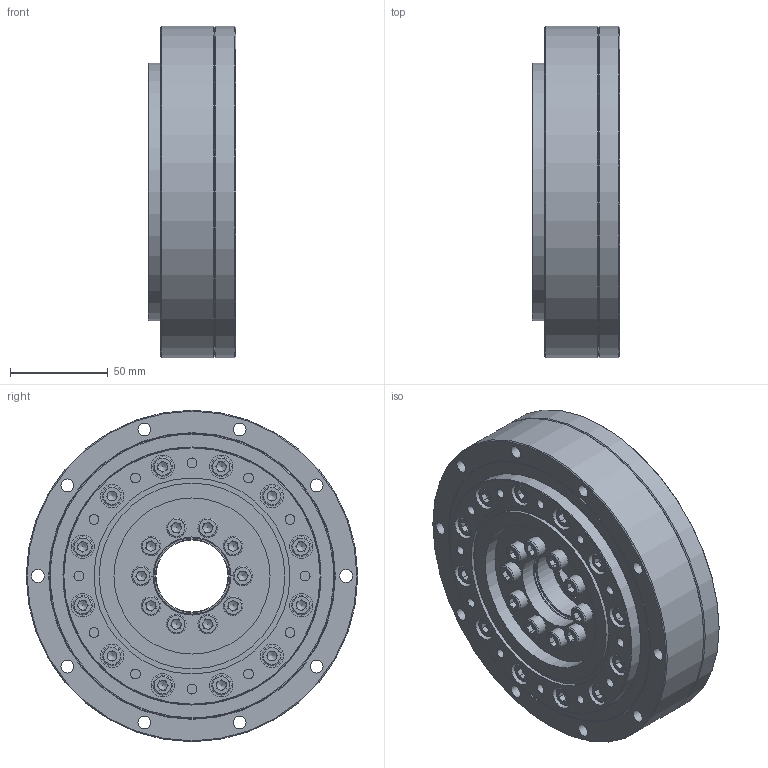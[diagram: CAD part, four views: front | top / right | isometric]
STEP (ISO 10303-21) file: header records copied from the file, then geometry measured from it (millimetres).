
FILE_DESCRIPTION (( 'STEP AP203' ), '1' );
FILE_NAME ('LCD-40-XXX-C-I.STEP', '2025-01-20T02:22:11', ( '' ), ( '' ), 'SwSTEP 2.0', 'SolidWorks 2023', '' );
FILE_SCHEMA (( 'CONFIG_CONTROL_DESIGN' ));
Length unit declared in the file: metre
Products named in the file (1): LCD-40-XXX-C-I
Bounding box: 45 x 170 x 170 mm (x, y, z)
Volume: 682506.7 mm3; surface area: 283789.4 mm2
Topology: 65 solids, 67 shells, 1167 faces, 2632 edges, 1646 vertices
Faces by surface type: plane 631, cylinder 289, cone 143, bspline 104
Full cylindrical faces by diameter (mm): 2.5 x4, 3 x4, 3.3 x5, 3.4 x4, 4 x5, 4.2 x4, 4.5 x5, 5 x34, 5.5 x4, 6 x26, 6.6 x52, 7 x5, 8 x5, 10 x22, 12 x12, 37 x1, 40 x4, 40.2 x1, 64 x2, 69 x2, 70.5 x1, 72 x2, 75 x1, 76 x1, 76.928 x2, 78.13 x1, 80 x1, 83.5 x1, 91.47 x1, 92.821 x2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
Entity records: 35270 total; most frequent: CARTESIAN_POINT 11462, DIRECTION 4994, ORIENTED_EDGE 4130, EDGE_CURVE 2065, AXIS2_PLACEMENT_3D 2055, EDGE_LOOP 1864, VERTEX_POINT 1537, FACE_OUTER_BOUND 1468
